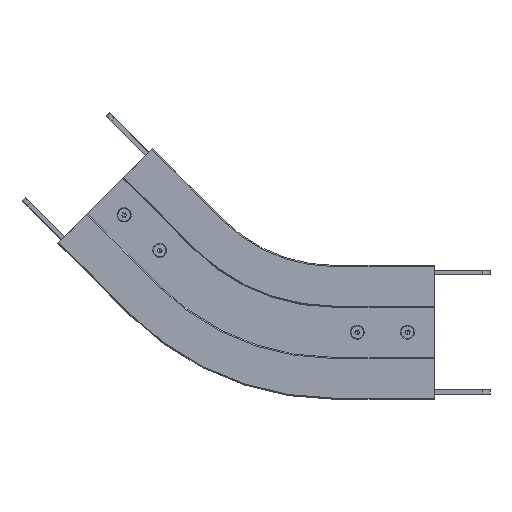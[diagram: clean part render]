
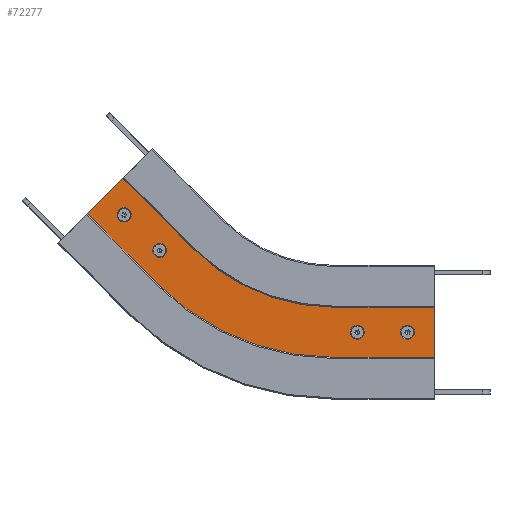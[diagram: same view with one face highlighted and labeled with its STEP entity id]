
A CAD part, front view. The second image highlights one B-rep face of the part: STEP entity #72277.
In plain terms, the highlighted planar face has unit normal (0, -1, 0).
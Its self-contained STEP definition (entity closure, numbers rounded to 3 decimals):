
#345 = CARTESIAN_POINT ( 'NONE',  ( 352.288, -83.5, 133.428 ) ) ;
#347 = DIRECTION ( 'NONE',  ( 0., -1., 0. ) ) ;
#349 = DIRECTION ( 'NONE',  ( 1., 0., 0. ) ) ;
#973 = DIRECTION ( 'NONE',  ( 1., 0., 0. ) ) ;
#983 = CARTESIAN_POINT ( 'NONE',  ( 574.559, -83.5, 60. ) ) ;
#984 = DIRECTION ( 'NONE',  ( 0., -1., 0. ) ) ;
#985 = DIRECTION ( 'NONE',  ( 1., 0., 0. ) ) ;
#986 = CARTESIAN_POINT ( 'NONE',  ( 529.559, -83.5, 60. ) ) ;
#987 = DIRECTION ( 'NONE',  ( 0., -1., 0. ) ) ;
#988 = DIRECTION ( 'NONE',  ( 1., 0., 0. ) ) ;
#990 = CARTESIAN_POINT ( 'NONE',  ( 508.559, -83.5, 25. ) ) ;
#4030 = CIRCLE ( 'NONE', #47429, 6.3 ) ;
#4240 = CIRCLE ( 'NONE', #47507, 6.3 ) ;
#4241 = CIRCLE ( 'NONE', #47509, 6.3 ) ;
#4243 = LINE ( 'NONE', #990, #4246 ) ;
#4246 = VECTOR ( 'NONE', #973, 1000. ) ;
#6615 = DIRECTION ( 'NONE',  ( 0., 0., -1. ) ) ;
#6620 = CARTESIAN_POINT ( 'NONE',  ( 598.559, -83.5, 25. ) ) ;
#6621 = CARTESIAN_POINT ( 'NONE',  ( 320.469, -83.5, 165.248 ) ) ;
#6622 = DIRECTION ( 'NONE',  ( 0., -1., 0. ) ) ;
#6624 = DIRECTION ( 'NONE',  ( 1., 0., 0. ) ) ;
#6742 = CARTESIAN_POINT ( 'NONE',  ( 508.559, -83.5, 95. ) ) ;
#6746 = DIRECTION ( 'NONE',  ( 1., 0., 0. ) ) ;
#6756 = CARTESIAN_POINT ( 'NONE',  ( 278.749, -83.5, 157.47 ) ) ;
#6758 = DIRECTION ( 'NONE',  ( -0.707, 0., -0.707 ) ) ;
#6795 = CARTESIAN_POINT ( 'NONE',  ( 391.886, -83.5, 143.327 ) ) ;
#6798 = DIRECTION ( 'NONE',  ( -0.707, 0., 0.707 ) ) ;
#6859 = CARTESIAN_POINT ( 'NONE',  ( 508.559, -83.5, 260. ) ) ;
#6860 = DIRECTION ( 'NONE',  ( 0., 1., 0. ) ) ;
#6862 = DIRECTION ( 'NONE',  ( -1., 0., 0. ) ) ;
#6885 = CARTESIAN_POINT ( 'NONE',  ( 508.559, -83.5, 260. ) ) ;
#6887 = DIRECTION ( 'NONE',  ( 0., 1., 0. ) ) ;
#6889 = DIRECTION ( 'NONE',  ( -1., 0., 0. ) ) ;
#7041 = CARTESIAN_POINT ( 'NONE',  ( 342.389, -83.5, 93.83 ) ) ;
#7044 = DIRECTION ( 'NONE',  ( -0.707, 0., 0.707 ) ) ;
#7146 = CARTESIAN_POINT ( 'NONE',  ( 320.469, -83.5, 165.248 ) ) ;
#7148 = DIRECTION ( 'NONE',  ( 0., -1., 0. ) ) ;
#7150 = DIRECTION ( 'NONE',  ( 1., 0., 0. ) ) ;
#7250 = CARTESIAN_POINT ( 'NONE',  ( 574.559, -83.5, 60. ) ) ;
#7252 = DIRECTION ( 'NONE',  ( 0., -1., 0. ) ) ;
#7254 = DIRECTION ( 'NONE',  ( 1., 0., 0. ) ) ;
#7295 = CARTESIAN_POINT ( 'NONE',  ( 529.559, -83.5, 60. ) ) ;
#7297 = DIRECTION ( 'NONE',  ( 0., -1., 0. ) ) ;
#7298 = DIRECTION ( 'NONE',  ( 1., 0., 0. ) ) ;
#7327 = CARTESIAN_POINT ( 'NONE',  ( 352.288, -83.5, 133.428 ) ) ;
#7329 = DIRECTION ( 'NONE',  ( 0., -1., 0. ) ) ;
#7330 = DIRECTION ( 'NONE',  ( 1., 0., 0. ) ) ;
#7605 = VERTEX_POINT ( 'NONE', #45930 ) ;
#7963 = VERTEX_POINT ( 'NONE', #46061 ) ;
#7975 = VERTEX_POINT ( 'NONE', #46066 ) ;
#8046 = VERTEX_POINT ( 'NONE', #44297 ) ;
#8270 = VERTEX_POINT ( 'NONE', #44405 ) ;
#8402 = VERTEX_POINT ( 'NONE', #44471 ) ;
#8554 = VERTEX_POINT ( 'NONE', #44547 ) ;
#8604 = VERTEX_POINT ( 'NONE', #44572 ) ;
#8608 = VERTEX_POINT ( 'NONE', #44574 ) ;
#8618 = VERTEX_POINT ( 'NONE', #44579 ) ;
#12392 = EDGE_LOOP ( 'NONE', ( #43468, #43470 ) ) ;
#12399 = EDGE_LOOP ( 'NONE', ( #20854, #20853 ) ) ;
#13085 = EDGE_LOOP ( 'NONE', ( #43455, #43457 ) ) ;
#13598 = AXIS2_PLACEMENT_3D ( 'NONE', #39794, #39786, #39806 ) ;
#13938 = AXIS2_PLACEMENT_3D ( 'NONE', #6621, #6622, #6624 ) ;
#13944 = AXIS2_PLACEMENT_3D ( 'NONE', #6859, #6860, #6862 ) ;
#13947 = AXIS2_PLACEMENT_3D ( 'NONE', #6885, #6887, #6889 ) ;
#13963 = AXIS2_PLACEMENT_3D ( 'NONE', #7146, #7148, #7150 ) ;
#13972 = AXIS2_PLACEMENT_3D ( 'NONE', #7250, #7252, #7254 ) ;
#13975 = AXIS2_PLACEMENT_3D ( 'NONE', #7295, #7297, #7298 ) ;
#13978 = AXIS2_PLACEMENT_3D ( 'NONE', #7327, #7329, #7330 ) ;
#14158 = VERTEX_POINT ( 'NONE', #44711 ) ;
#14444 = VERTEX_POINT ( 'NONE', #43615 ) ;
#14517 = VERTEX_POINT ( 'NONE', #43706 ) ;
#18326 = VERTEX_POINT ( 'NONE', #43988 ) ;
#20851 = ORIENTED_EDGE ( 'NONE', *, *, #73407, .F. ) ;
#20852 = ORIENTED_EDGE ( 'NONE', *, *, #50426, .F. ) ;
#20853 = ORIENTED_EDGE ( 'NONE', *, *, #73343, .F. ) ;
#20854 = ORIENTED_EDGE ( 'NONE', *, *, #73126, .F. ) ;
#20856 = ORIENTED_EDGE ( 'NONE', *, *, #73129, .F. ) ;
#20865 = ORIENTED_EDGE ( 'NONE', *, *, #73240, .T. ) ;
#20866 = ORIENTED_EDGE ( 'NONE', *, *, #73206, .T. ) ;
#20868 = ORIENTED_EDGE ( 'NONE', *, *, #73182, .F. ) ;
#38880 = LINE ( 'NONE', #6620, #38886 ) ;
#38882 = CIRCLE ( 'NONE', #13938, 6.3 ) ;
#38886 = VECTOR ( 'NONE', #6615, 1000. ) ;
#38931 = LINE ( 'NONE', #6742, #38934 ) ;
#38934 = VECTOR ( 'NONE', #6746, 1000. ) ;
#38937 = LINE ( 'NONE', #6756, #38940 ) ;
#38940 = VECTOR ( 'NONE', #6758, 1000. ) ;
#38952 = LINE ( 'NONE', #6795, #38955 ) ;
#38955 = VECTOR ( 'NONE', #6798, 1000. ) ;
#38974 = CIRCLE ( 'NONE', #13944, 235. ) ;
#38976 = CIRCLE ( 'NONE', #13947, 165. ) ;
#39027 = LINE ( 'NONE', #7041, #39030 ) ;
#39030 = VECTOR ( 'NONE', #7044, 1000. ) ;
#39059 = CIRCLE ( 'NONE', #13963, 6.3 ) ;
#39083 = CIRCLE ( 'NONE', #13972, 6.3 ) ;
#39097 = CIRCLE ( 'NONE', #13975, 6.3 ) ;
#39100 = CIRCLE ( 'NONE', #13978, 6.3 ) ;
#39786 = DIRECTION ( 'NONE',  ( 0., -1., 0. ) ) ;
#39794 = CARTESIAN_POINT ( 'NONE',  ( 508.559, -83.5, 25. ) ) ;
#39800 = PLANE ( 'NONE',  #13598 ) ;
#39806 = DIRECTION ( 'NONE',  ( 1., 0., 0. ) ) ;
#42102 = CARTESIAN_POINT ( 'NONE',  ( 580.859, -83.5, 60. ) ) ;
#42166 = CARTESIAN_POINT ( 'NONE',  ( 328.247, -83.5, 206.967 ) ) ;
#43455 = ORIENTED_EDGE ( 'NONE', *, *, #50551, .F. ) ;
#43457 = ORIENTED_EDGE ( 'NONE', *, *, #73379, .F. ) ;
#43468 = ORIENTED_EDGE ( 'NONE', *, *, #50552, .F. ) ;
#43470 = ORIENTED_EDGE ( 'NONE', *, *, #73396, .F. ) ;
#43481 = ORIENTED_EDGE ( 'NONE', *, *, #50554, .T. ) ;
#43483 = ORIENTED_EDGE ( 'NONE', *, *, #73231, .F. ) ;
#43485 = ORIENTED_EDGE ( 'NONE', *, *, #73302, .F. ) ;
#43487 = ORIENTED_EDGE ( 'NONE', *, *, #73189, .T. ) ;
#43615 = CARTESIAN_POINT ( 'NONE',  ( 358.588, -83.5, 133.428 ) ) ;
#43706 = CARTESIAN_POINT ( 'NONE',  ( 391.886, -83.5, 143.327 ) ) ;
#43988 = CARTESIAN_POINT ( 'NONE',  ( 278.749, -83.5, 157.47 ) ) ;
#44297 = CARTESIAN_POINT ( 'NONE',  ( 568.259, -83.5, 60. ) ) ;
#44405 = CARTESIAN_POINT ( 'NONE',  ( 345.988, -83.5, 133.428 ) ) ;
#44471 = CARTESIAN_POINT ( 'NONE',  ( 314.169, -83.5, 165.248 ) ) ;
#44547 = CARTESIAN_POINT ( 'NONE',  ( 598.559, -83.5, 25. ) ) ;
#44572 = CARTESIAN_POINT ( 'NONE',  ( 326.769, -83.5, 165.248 ) ) ;
#44574 = CARTESIAN_POINT ( 'NONE',  ( 598.559, -83.5, 95. ) ) ;
#44579 = CARTESIAN_POINT ( 'NONE',  ( 508.559, -83.5, 95. ) ) ;
#44711 = CARTESIAN_POINT ( 'NONE',  ( 342.389, -83.5, 93.83 ) ) ;
#45930 = CARTESIAN_POINT ( 'NONE',  ( 508.559, -83.5, 25. ) ) ;
#46061 = CARTESIAN_POINT ( 'NONE',  ( 535.859, -83.5, 60. ) ) ;
#46066 = CARTESIAN_POINT ( 'NONE',  ( 523.259, -83.5, 60. ) ) ;
#47429 = AXIS2_PLACEMENT_3D ( 'NONE', #345, #347, #349 ) ;
#47507 = AXIS2_PLACEMENT_3D ( 'NONE', #983, #984, #985 ) ;
#47509 = AXIS2_PLACEMENT_3D ( 'NONE', #986, #987, #988 ) ;
#50426 = EDGE_CURVE ( 'NONE', #14444, #8270, #4030, .T. ) ;
#50551 = EDGE_CURVE ( 'NONE', #67235, #8046, #4240, .T. ) ;
#50552 = EDGE_CURVE ( 'NONE', #7963, #7975, #4241, .T. ) ;
#50554 = EDGE_CURVE ( 'NONE', #7605, #8554, #4243, .T. ) ;
#59319 = EDGE_LOOP ( 'NONE', ( #20856, #20868, #20865, #20866, #43487, #43485, #43483, #43481 ) ) ;
#59335 = EDGE_LOOP ( 'NONE', ( #20852, #20851 ) ) ;
#61133 = FACE_BOUND ( 'NONE', #13085, .T. ) ;
#61157 = FACE_BOUND ( 'NONE', #59335, .T. ) ;
#61181 = FACE_BOUND ( 'NONE', #12399, .T. ) ;
#61188 = FACE_OUTER_BOUND ( 'NONE', #59319, .T. ) ;
#61195 = FACE_BOUND ( 'NONE', #12392, .T. ) ;
#67235 = VERTEX_POINT ( 'NONE', #42102 ) ;
#67339 = VERTEX_POINT ( 'NONE', #42166 ) ;
#72277 = ADVANCED_FACE ( 'NONE', ( #61133, #61195, #61157, #61181, #61188 ), #39800, .T. ) ;
#73126 = EDGE_CURVE ( 'NONE', #8604, #8402, #38882, .T. ) ;
#73129 = EDGE_CURVE ( 'NONE', #8608, #8554, #38880, .T. ) ;
#73182 = EDGE_CURVE ( 'NONE', #8618, #8608, #38931, .T. ) ;
#73189 = EDGE_CURVE ( 'NONE', #67339, #18326, #38937, .T. ) ;
#73206 = EDGE_CURVE ( 'NONE', #14517, #67339, #38952, .T. ) ;
#73231 = EDGE_CURVE ( 'NONE', #7605, #14158, #38974, .T. ) ;
#73240 = EDGE_CURVE ( 'NONE', #8618, #14517, #38976, .T. ) ;
#73302 = EDGE_CURVE ( 'NONE', #14158, #18326, #39027, .T. ) ;
#73343 = EDGE_CURVE ( 'NONE', #8402, #8604, #39059, .T. ) ;
#73379 = EDGE_CURVE ( 'NONE', #8046, #67235, #39083, .T. ) ;
#73396 = EDGE_CURVE ( 'NONE', #7975, #7963, #39097, .T. ) ;
#73407 = EDGE_CURVE ( 'NONE', #8270, #14444, #39100, .T. ) ;
